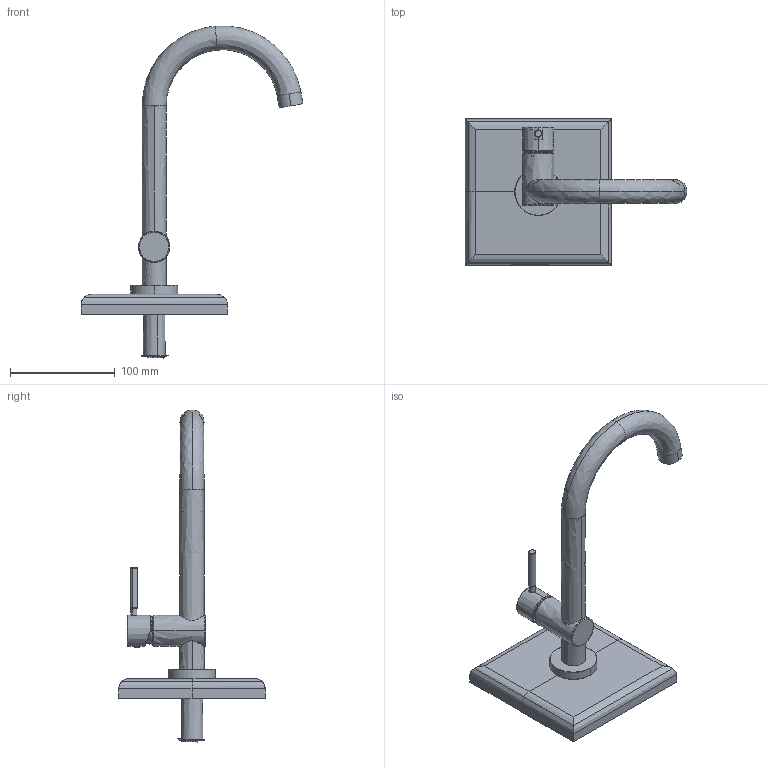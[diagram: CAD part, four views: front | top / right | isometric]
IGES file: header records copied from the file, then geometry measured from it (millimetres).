
Start section: SolidWorks IGES file using analytic representation for surfaces
Global section: file name: C:\Data\Icy\Work\ADHOC-03280\sku_ru01series_ igs.IGS; native system: SolidWorks 2023; preprocessor: SolidWorks 2023; author: ihong; date: 250415.110359; units: metre
Bounding box: 212.33 x 140 x 317.65 mm (x, y, z)
Volume: 601095.7 mm3; surface area: 161835.1 mm2
Topology: 16 solids, 16 shells, 824 faces, 3596 edges, 2922 vertices
Faces by surface type: revolution 481, plane 240, bspline 103
